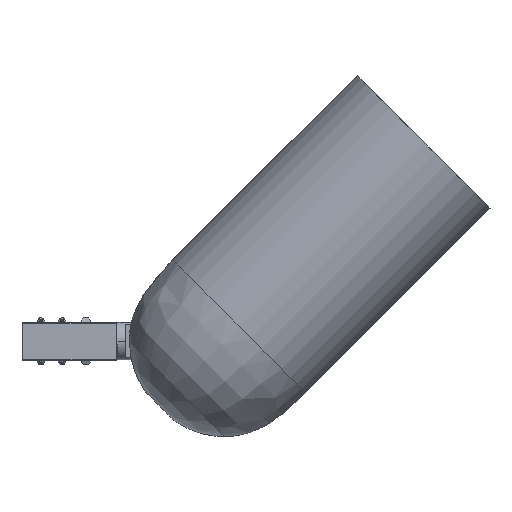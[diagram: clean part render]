
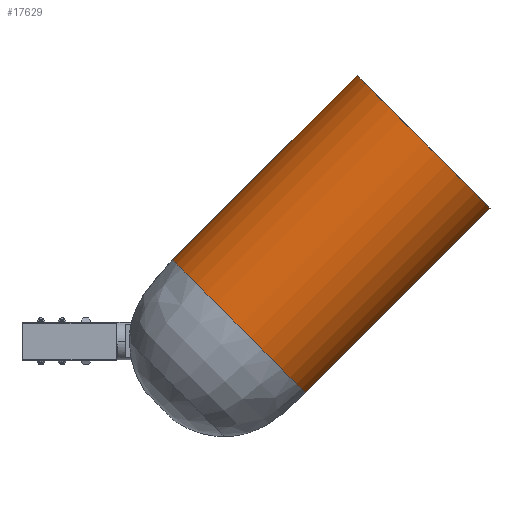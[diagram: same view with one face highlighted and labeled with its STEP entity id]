
A CAD part, left-side view. The second image highlights one B-rep face of the part: STEP entity #17629.
In plain terms, the highlighted cylindrical face has radius 17.5 mm (diameter 35 mm), a partial arc.
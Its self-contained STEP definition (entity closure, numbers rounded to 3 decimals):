
#452 = CARTESIAN_POINT ( 'NONE',  ( 0., 21.39, 0. ) ) ;
#3952 = CARTESIAN_POINT ( 'NONE',  ( 0., -3.5, 0. ) ) ;
#4082 = VECTOR ( 'NONE', #17330, 1000. ) ;
#5212 = CARTESIAN_POINT ( 'NONE',  ( -17.5, 70., 0. ) ) ;
#5545 = LINE ( 'NONE', #16307, #4082 ) ;
#5768 = AXIS2_PLACEMENT_3D ( 'NONE', #3952, #25172, #57894 ) ;
#7711 = EDGE_LOOP ( 'NONE', ( #53324, #33204, #7755, #14632 ) ) ;
#7755 = ORIENTED_EDGE ( 'NONE', *, *, #22494, .F. ) ;
#9645 = VERTEX_POINT ( 'NONE', #44797 ) ;
#14632 = ORIENTED_EDGE ( 'NONE', *, *, #38360, .F. ) ;
#14787 = AXIS2_PLACEMENT_3D ( 'NONE', #30276, #51504, #45948 ) ;
#16307 = CARTESIAN_POINT ( 'NONE',  ( -17.5, 70., 0. ) ) ;
#17330 = DIRECTION ( 'NONE',  ( 0., -1., 0. ) ) ;
#17629 = ADVANCED_FACE ( 'NONE', ( #40846 ), #67626, .T. ) ;
#20868 = LINE ( 'NONE', #31653, #63860 ) ;
#22494 = EDGE_CURVE ( 'NONE', #39100, #9645, #60591, .T. ) ;
#25172 = DIRECTION ( 'NONE',  ( 0., 1., 0. ) ) ;
#27231 = DIRECTION ( 'NONE',  ( 0., -1., 0. ) ) ;
#30276 = CARTESIAN_POINT ( 'NONE',  ( 0., 70., 0. ) ) ;
#31653 = CARTESIAN_POINT ( 'NONE',  ( 17.5, 70., 0. ) ) ;
#33204 = ORIENTED_EDGE ( 'NONE', *, *, #34341, .T. ) ;
#34341 = EDGE_CURVE ( 'NONE', #41909, #9645, #20868, .T. ) ;
#38160 = CIRCLE ( 'NONE', #14787, 17.5 ) ;
#38360 = EDGE_CURVE ( 'NONE', #39358, #39100, #5545, .T. ) ;
#39100 = VERTEX_POINT ( 'NONE', #57951 ) ;
#39358 = VERTEX_POINT ( 'NONE', #5212 ) ;
#40846 = FACE_OUTER_BOUND ( 'NONE', #7711, .T. ) ;
#41909 = VERTEX_POINT ( 'NONE', #59430 ) ;
#43928 = DIRECTION ( 'NONE',  ( -1., 0., 0. ) ) ;
#44797 = CARTESIAN_POINT ( 'NONE',  ( 17.5, 21.39, 0. ) ) ;
#45948 = DIRECTION ( 'NONE',  ( -1., 0., 0. ) ) ;
#51504 = DIRECTION ( 'NONE',  ( 0., -1., 0. ) ) ;
#53324 = ORIENTED_EDGE ( 'NONE', *, *, #53539, .T. ) ;
#53539 = EDGE_CURVE ( 'NONE', #39358, #41909, #38160, .T. ) ;
#57282 = AXIS2_PLACEMENT_3D ( 'NONE', #452, #27231, #43928 ) ;
#57894 = DIRECTION ( 'NONE',  ( 1., 0., 0. ) ) ;
#57951 = CARTESIAN_POINT ( 'NONE',  ( -17.5, 21.39, 0. ) ) ;
#59430 = CARTESIAN_POINT ( 'NONE',  ( 17.5, 70., 0. ) ) ;
#60591 = CIRCLE ( 'NONE', #57282, 17.5 ) ;
#63666 = DIRECTION ( 'NONE',  ( 0., -1., 0. ) ) ;
#63860 = VECTOR ( 'NONE', #63666, 1000. ) ;
#67626 = CYLINDRICAL_SURFACE ( 'NONE', #5768, 17.5 ) ;
